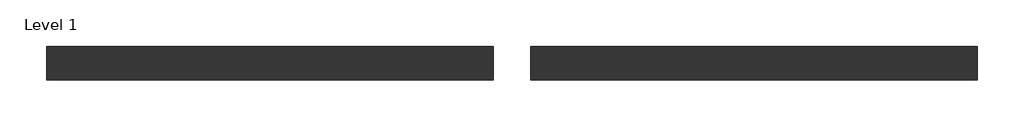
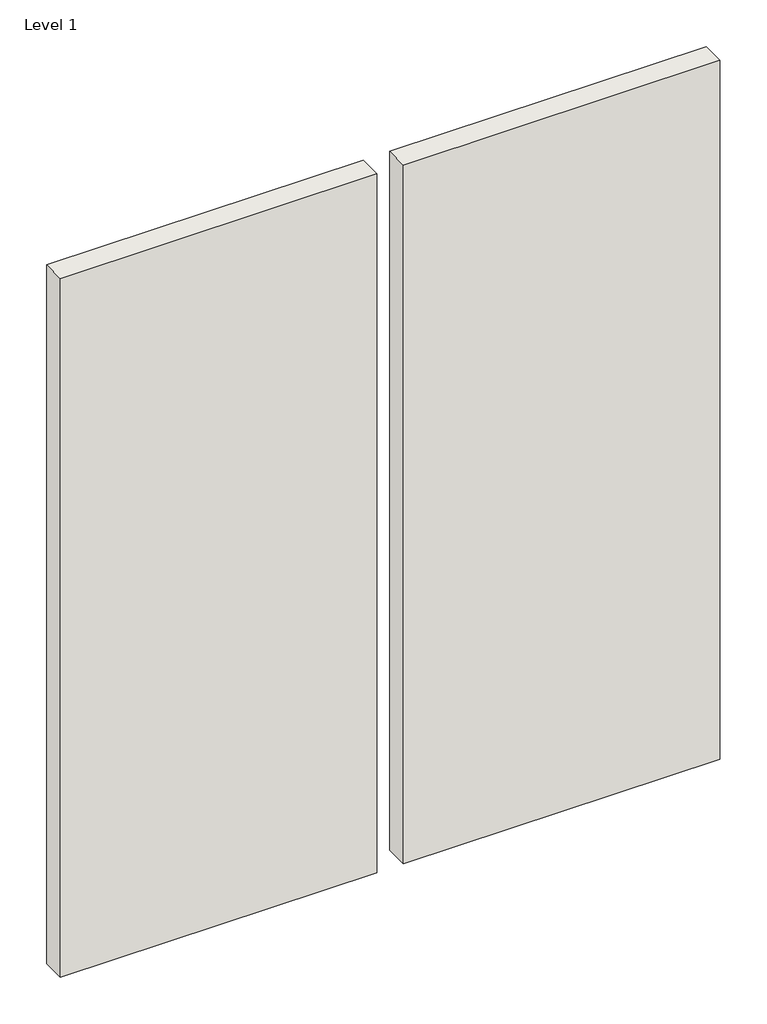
# One storey: 2 walls.
"""IFC4 building model written with IfcOpenShell, lengths in millimetres."""

from ifc_helpers import new_model, si_unit, origin, origin_with_axes, place, context, project, spatial, polyline, outline, extrude, element, save

model = new_model("IFC4")

# Units and contexts
model_context = context("Model", 3, world=origin())
ifc_project = project(units=[si_unit("LENGTHUNIT", "METRE", prefix="MILLI")], contexts=[model_context])

# Site, building, storey
site = spatial("IfcSite", under=ifc_project)
building = spatial("IfcBuilding", under=site)
storey = spatial("IfcBuildingStorey", under=building, Name="Level 1", Elevation=0.0)

# Walls
placement = place(None, origin())
element("IfcWall", 1, ObjectType="Revestimiento de fachada Placotherm® V modulada a 600  con Ecovent VN, mortero Placotherm® Base y mortero decorativo", at=placement, inside=storey, context=model_context, shape_type="SweptSolid", body=[
    extrude(outline(polyline([(-1937.1330845, -2064.5345816), (-3137.1330845, -2064.5345816), (-3137.1330845, -1973.5345816), (-1937.1330845, -1973.5345816), (-1937.1330845, -2064.5345816)])), origin_with_axes(), (0.0, 0.0, 1.0), 2800.0),
])
element("IfcWall", 2, ObjectType="Revestimiento de fachada Placotherm® V modulada a 600  con Ecovent VN, mortero Placotherm® Base y mortero decorativo", at=placement, inside=storey, context=model_context, shape_type="SweptSolid", body=[
    extrude(outline(polyline([(-637.1330845, -2064.5345816), (-1837.1330845, -2064.5345816), (-1837.1330845, -1973.5345816), (-637.1330845, -1973.5345816), (-637.1330845, -2064.5345816)])), origin_with_axes(), (0.0, 0.0, 1.0), 2800.0),
])

save(model, "model.ifc")
